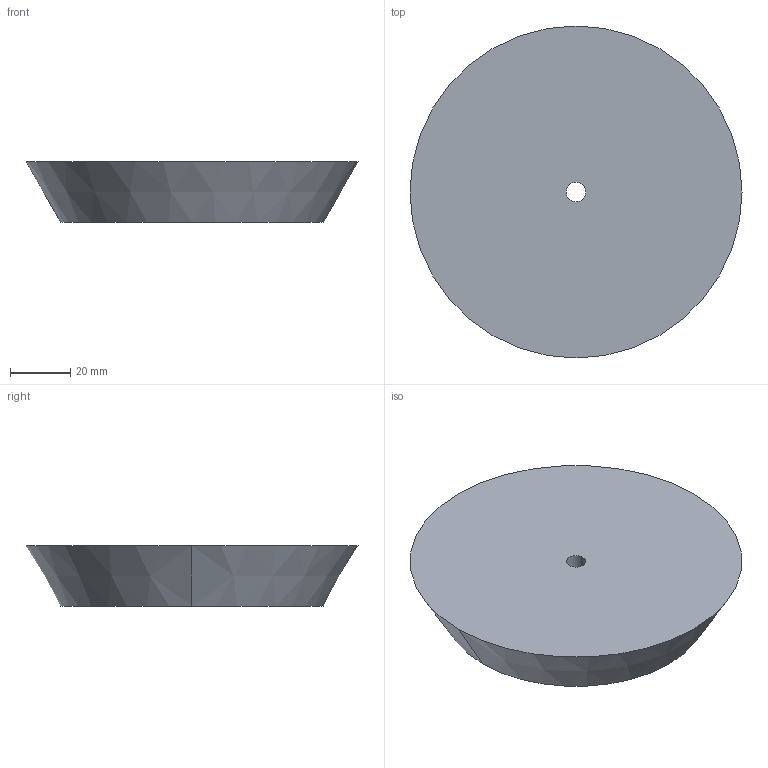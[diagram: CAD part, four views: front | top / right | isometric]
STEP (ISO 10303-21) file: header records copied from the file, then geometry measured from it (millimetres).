
FILE_DESCRIPTION(('CATIA V5 STEP Exchange'),'2;1');
FILE_NAME('C:\Users\andres.garcia\OneDrive - IQS\ASIGNATURAS\DAO\Controles\2223\c0\c1-BERENGUER_Bruno-tapon.stp','2023-02-03T08:22:02+00:00',('none'),('none'),'CATIA Version 5-6 Release 2013 SP6','CATIA V5 STEP AP203','none');
FILE_SCHEMA(('CONFIG_CONTROL_DESIGN'));
Length unit declared in the file: millimetre
Products named in the file (1): c1-BERENGUER_Bruno-tapon
Bounding box: 110 x 110 x 20 mm (x, y, z)
Volume: 152291.6 mm3; surface area: 22920.2 mm2
Topology: 1 solids, 1 shells, 6 faces, 12 edges, 8 vertices
Faces by surface type: cylinder 2, plane 2, cone 2
Entity records: 196 total; most frequent: CARTESIAN_POINT 26, ORIENTED_EDGE 24, DIRECTION 22, AXIS2_PLACEMENT_3D 14, EDGE_CURVE 12, CIRCLE 8, EDGE_LOOP 8, VERTEX_POINT 8
